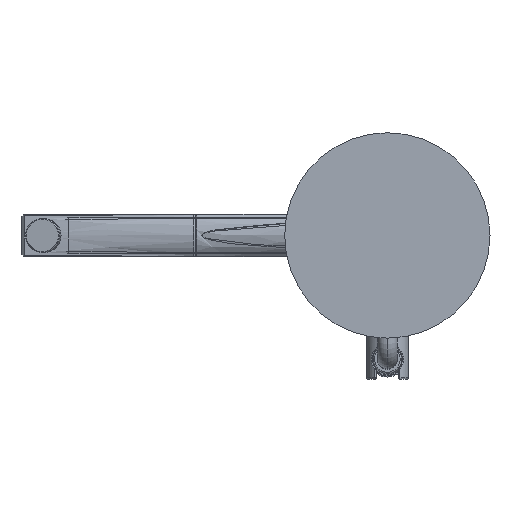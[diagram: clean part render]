
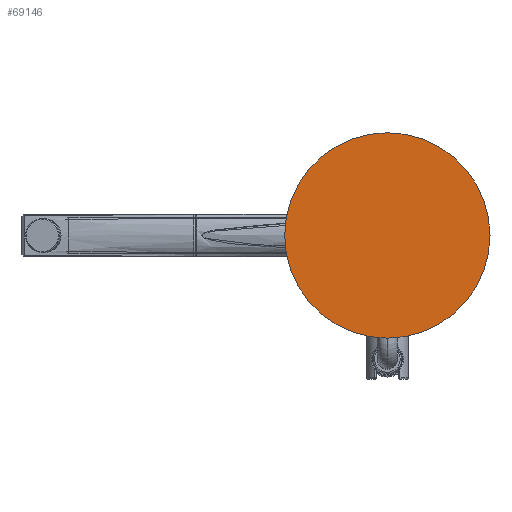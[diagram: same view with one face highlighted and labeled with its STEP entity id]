
A CAD part, front view. The second image highlights one B-rep face of the part: STEP entity #69146.
In plain terms, the highlighted planar face has unit normal (0, -1, 0).
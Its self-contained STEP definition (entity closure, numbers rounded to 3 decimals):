
#10231=CARTESIAN_POINT('',(0.,-887.,0.));
#10232=DIRECTION('',(0.,1.,0.));
#10233=DIRECTION('',(1.,0.,0.));
#10234=AXIS2_PLACEMENT_3D('',#10231,#10232,#10233);
#10236=CARTESIAN_POINT('',(0.,-887.,0.));
#10237=DIRECTION('',(0.,1.,0.));
#10238=DIRECTION('',(-1.,0.,0.));
#10239=AXIS2_PLACEMENT_3D('',#10236,#10237,#10238);
#60945=CARTESIAN_POINT('',(72.5,-887.,0.));
#60946=CARTESIAN_POINT('',(-72.5,-887.,0.));
#60947=VERTEX_POINT('',#60945);
#60948=VERTEX_POINT('',#60946);
#69136=CARTESIAN_POINT('',(78.656,-887.,-87.15));
#69137=DIRECTION('',(0.,1.,0.));
#69138=DIRECTION('',(-1.,0.,0.));
#69139=AXIS2_PLACEMENT_3D('',#69136,#69137,#69138);
#69140=PLANE('',#69139);
#69142=ORIENTED_EDGE('',*,*,#69141,.T.);
#69143=ORIENTED_EDGE('',*,*,#69126,.T.);
#69144=EDGE_LOOP('',(#69142,#69143));
#69145=FACE_OUTER_BOUND('',#69144,.F.);
#69146=ADVANCED_FACE('',(#69145),#69140,.F.);
#10235=CIRCLE('',#10234,72.5);
#10240=CIRCLE('',#10239,72.5);
#69126=EDGE_CURVE('',#60948,#60947,#10240,.T.);
#69141=EDGE_CURVE('',#60947,#60948,#10235,.T.);
